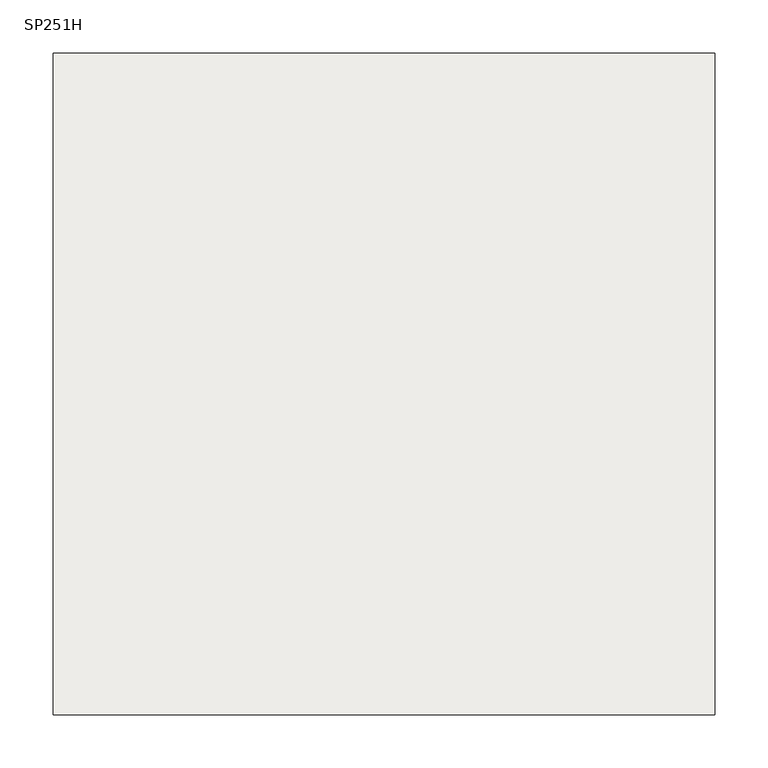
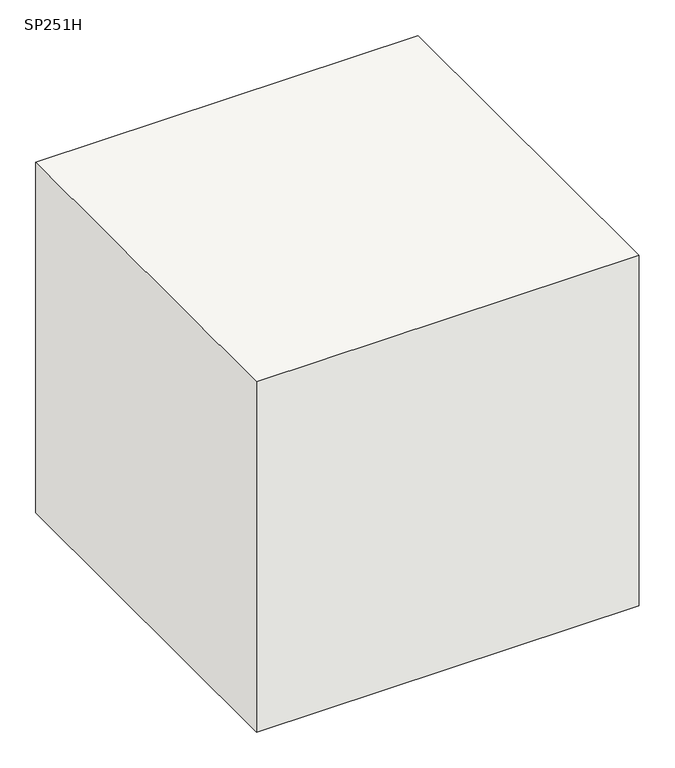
"""IFC4 building model written with IfcOpenShell, lengths in millimetres: slab geometry, 柱形_SP : SP251H."""

from ifc_helpers import new_model, si_unit, frame, origin, place, context, project, spatial, polyline, outline, extrude, source, transform, mapped, element, save


def sp251h_73d5eac0(model_context):
    return source(origin(), model_context, "Body", "SweptSolid", [
        extrude(outline(polyline([(310.0, 310.0), (310.0, -310.0), (-310.0, -310.0), (-310.0, 310.0), (310.0, 310.0)])), frame((0.0, 0.0, -600.0), z_axis=(0.0, 0.0, 1.0), x_axis=(1.0, 0.0, 0.0)), (0.0, 0.0, 1.0), 600.0),
    ])


if __name__ == "__main__":
    model = new_model("IFC4")
    model_context = context("Model", 3, world=origin())
    ifc_project = project(units=[si_unit("LENGTHUNIT", "METRE", prefix="MILLI")], contexts=[model_context])
    site = spatial("IfcSite", under=ifc_project)
    building = spatial("IfcBuilding", under=site)
    placement = place(None, origin())
    sp251h_shape = sp251h_73d5eac0(model_context)
    element("IfcSlab", 1, ObjectType="柱形_SP : SP251H", at=placement, inside=building, context=model_context, shape_type="MappedRepresentation", body=[
        mapped(sp251h_shape, transform((0.0, 0.0, 0.0), x_axis=(1.0, 0.0, 0.0), y_axis=(0.0, 1.0, 0.0), z_axis=(0.0, 0.0, 1.0))),
    ])
    save(model, "model.ifc")
